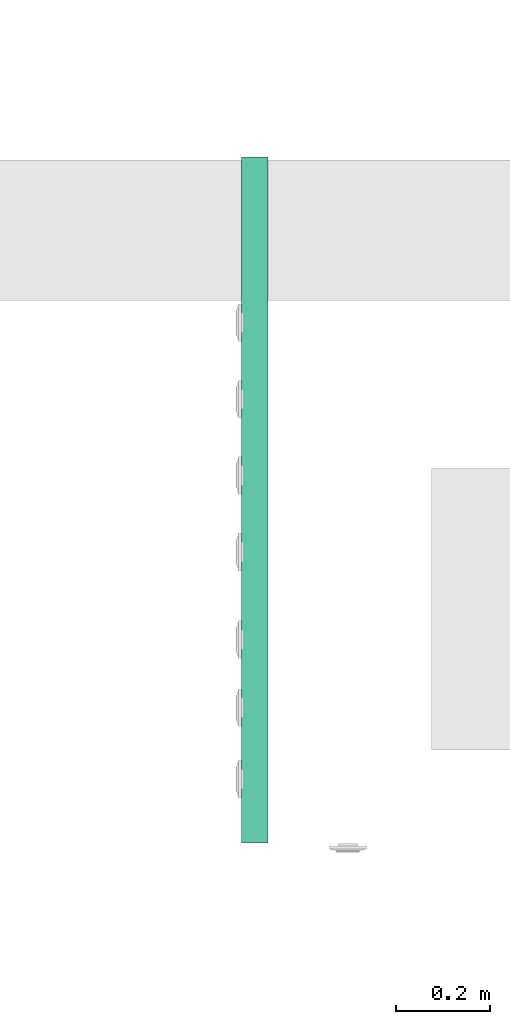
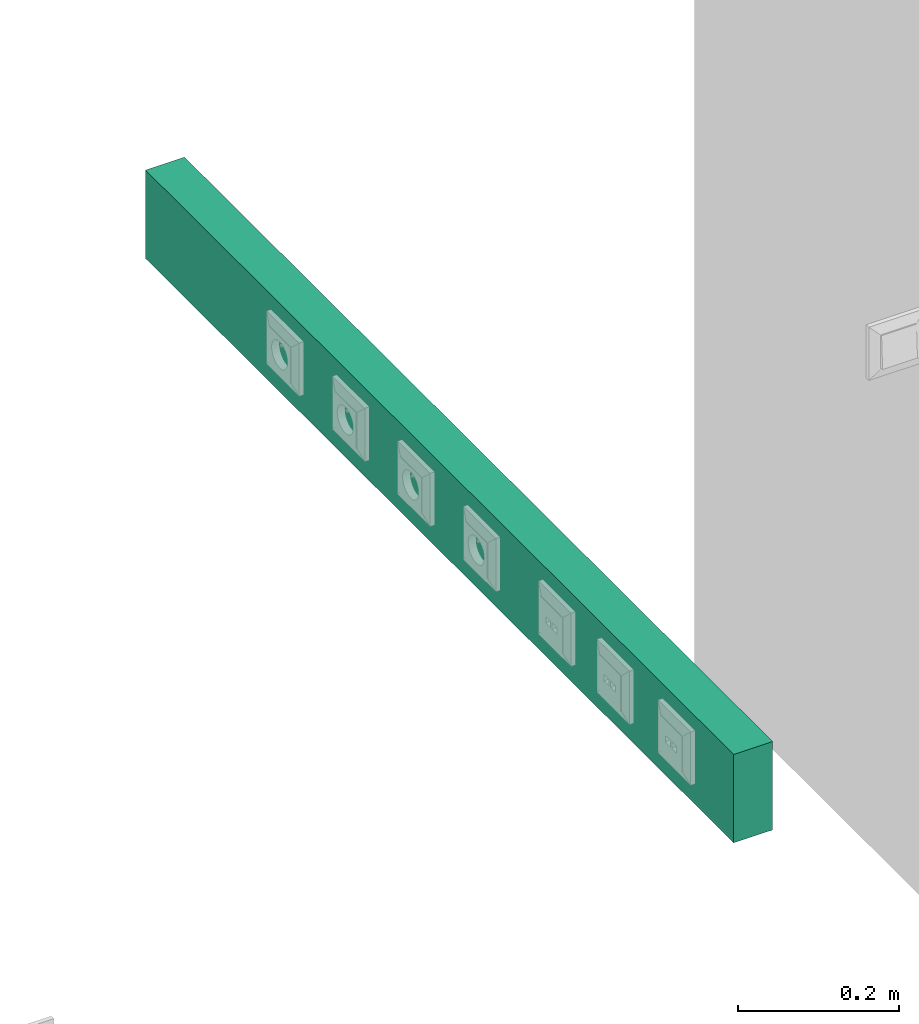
# One storey, part 9 of 166: 1 flow segment.
"""IFC2X3 building model written with IfcOpenShell, lengths in metres."""

from ifc_helpers import new_model, entity, si_unit, converted_unit, derived_unit, direction, frame, frame_2d, origin, place, context, subcontext, project, spatial, rectangle, extrude, type_object, element, save


model = new_model("IFC2X3")

# Units and contexts
model_context = context("Model", 3, precision=1e-05, world=origin(), true_north=direction((6.12303176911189e-17, 1.0)))
body_context = subcontext(model_context, "Body", "Model", "MODEL_VIEW")
ifc_project = project(units=[si_unit("LENGTHUNIT", "METRE"), si_unit("AREAUNIT", "SQUARE_METRE"), si_unit("VOLUMEUNIT", "CUBIC_METRE"), converted_unit("PLANEANGLEUNIT", "DEGREE", entity("IfcRatioMeasure", 0.0174532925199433), si_unit("PLANEANGLEUNIT", "RADIAN"), dimensions=[0, 0, 0, 0, 0, 0, 0]), si_unit("MASSUNIT", "GRAM", prefix="KILO"), derived_unit("MASSDENSITYUNIT", [(si_unit("MASSUNIT", "GRAM", prefix="KILO"), 1), (si_unit("LENGTHUNIT", "METRE"), -3)]), si_unit("TIMEUNIT", "SECOND"), si_unit("FREQUENCYUNIT", "HERTZ"), si_unit("THERMODYNAMICTEMPERATUREUNIT", "DEGREE_CELSIUS"), derived_unit("THERMALTRANSMITTANCEUNIT", [(si_unit("MASSUNIT", "GRAM", prefix="KILO"), 1), (si_unit("THERMODYNAMICTEMPERATUREUNIT", "KELVIN"), -1), (si_unit("TIMEUNIT", "SECOND"), -3)]), derived_unit("VOLUMETRICFLOWRATEUNIT", [(si_unit("LENGTHUNIT", "METRE"), 3), (si_unit("TIMEUNIT", "SECOND"), -1)]), si_unit("ELECTRICCURRENTUNIT", "AMPERE"), si_unit("ELECTRICVOLTAGEUNIT", "VOLT"), si_unit("POWERUNIT", "WATT"), si_unit("FORCEUNIT", "NEWTON"), si_unit("ILLUMINANCEUNIT", "LUX"), si_unit("LUMINOUSFLUXUNIT", "LUMEN"), si_unit("LUMINOUSINTENSITYUNIT", "CANDELA"), derived_unit("USERDEFINED", [(si_unit("MASSUNIT", "GRAM", prefix="KILO"), -1), (si_unit("LENGTHUNIT", "METRE"), -2), (si_unit("TIMEUNIT", "SECOND"), 3), (si_unit("LUMINOUSFLUXUNIT", "LUMEN"), 1)]), derived_unit("LINEARVELOCITYUNIT", [(si_unit("LENGTHUNIT", "METRE"), 1), (si_unit("TIMEUNIT", "SECOND"), -1)]), si_unit("PRESSUREUNIT", "PASCAL"), derived_unit("USERDEFINED", [(si_unit("LENGTHUNIT", "METRE"), -2), (si_unit("MASSUNIT", "GRAM", prefix="KILO"), 1), (si_unit("TIMEUNIT", "SECOND"), -2)])], contexts=[model_context])

# Site, building, storey
site_placement = place(None, origin())
site = spatial("IfcSite", under=ifc_project, at=site_placement, Name="Default", CompositionType="ELEMENT")
building_placement = place(site_placement, origin())
building = spatial("IfcBuilding", under=site, at=building_placement, CompositionType="ELEMENT")
storey_placement = place(building_placement, frame((0.0, 0.0, 4.27)))
storey = spatial("IfcBuildingStorey", under=building, at=storey_placement, Name="01", CompositionType="ELEMENT", Elevation=4.27)

# Flow segment
cable_carrier_segment_type = type_object("IfcCableCarrierSegmentType", Name="Cable Tray with Fittings:Goulottes de câbles indéfini_Goulottes de câbles", PredefinedType="NOTDEFINED")
flow_segment_placement = place(storey_placement, origin())
element("IfcFlowSegment", 1, at=flow_segment_placement, inside=storey, type_object=cable_carrier_segment_type, Name="Cable Tray with Fittings:Goulottes de câbles indéfini_Goulottes de câbles", ObjectType="Cable Tray with Fittings:Goulottes de câbles indéfini_Goulottes de câbles", context=body_context, shape_type="SweptSolid", body=[
    extrude(rectangle(XDim=1.461, YDim=0.0560000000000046, at=frame_2d((1.73194791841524e-14, 4.33160451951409e-15), x_axis=(1.0, 0.0))), frame((40.861743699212, -189.971154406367, 0.366000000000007), z_axis=(0.0, 0.0, 1.0), x_axis=(0.0, 1.0, 0.0)), (0.0, 0.0, 1.0), 0.133999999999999),
])

save(model, "model.ifc")
